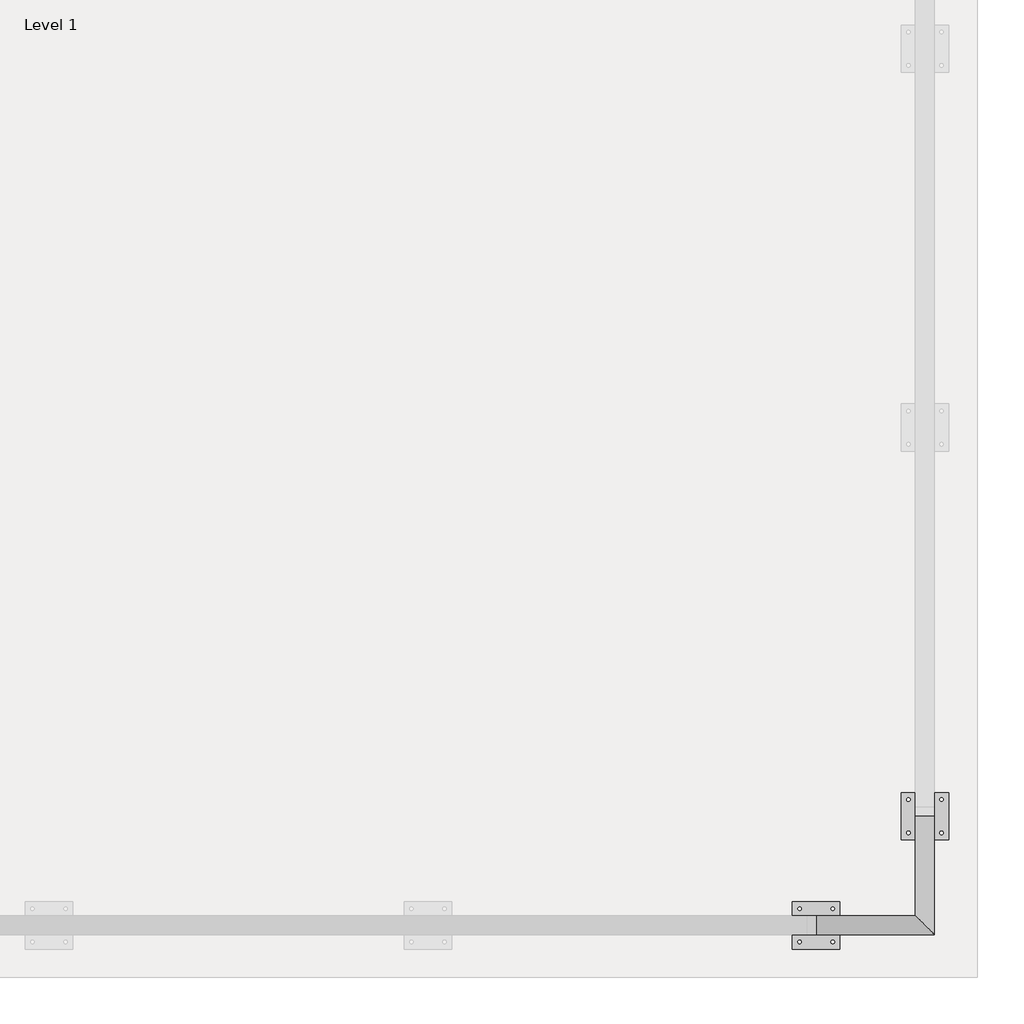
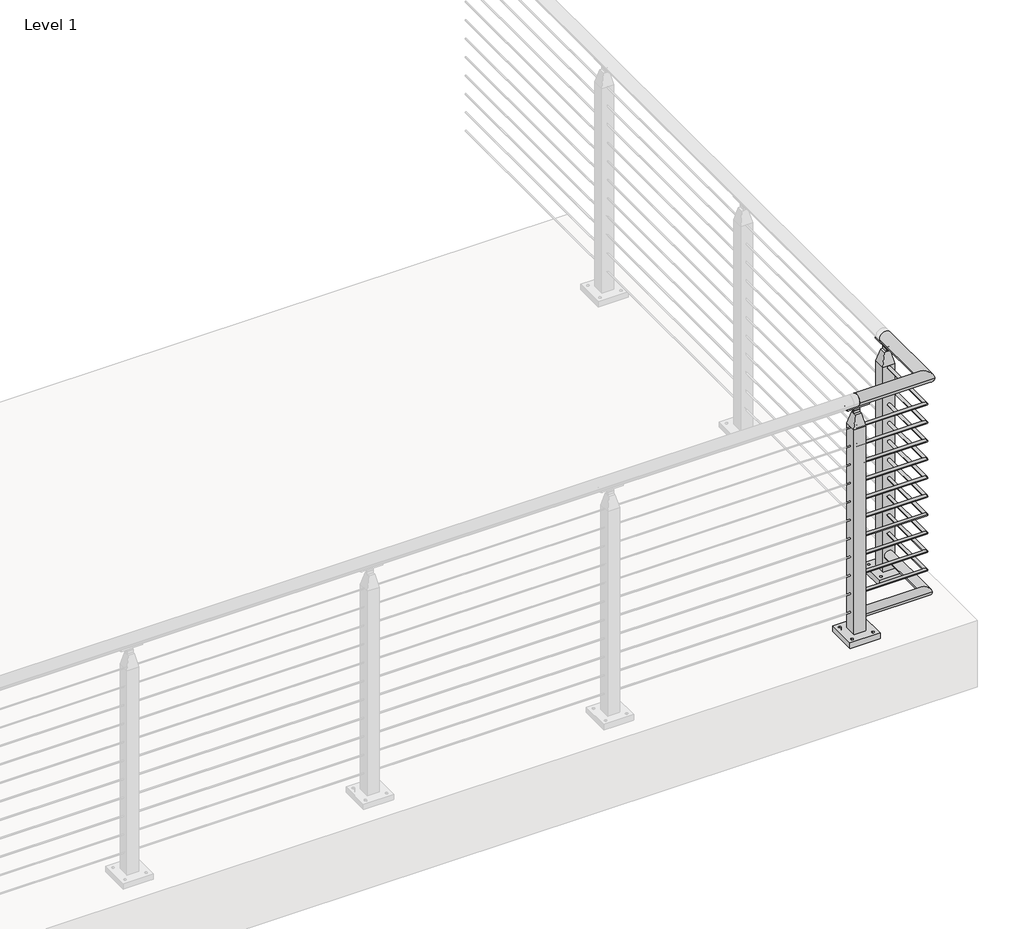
# One storey, part 10 of 26: 1 railing.
"""IFC4 building model written with IfcOpenShell, lengths in millimetres."""

from ifc_helpers import new_model, si_unit, point, frame, frame_2d, origin, origin_with_axes, place, context, project, spatial, polyline, circle_curve, ellipse_curve, trimmed, segment, composite_curve, outline, extrude, faceted_brep, element, save
from ifc_brep_helpers import plane_surface, cylinder_surface, advanced_brep

model = new_model("IFC4")

# Units and contexts
model_context = context("Model", 3, world=origin())
ifc_project = project(units=[si_unit("LENGTHUNIT", "METRE", prefix="MILLI")], contexts=[model_context])

# Site, building, storey
site = spatial("IfcSite", under=ifc_project)
building = spatial("IfcBuilding", under=site)
storey = spatial("IfcBuildingStorey", under=building, Name="Level 1", Elevation=0.0)

# Railing
placement = place(None, origin())
element("IfcRailing", 1, ObjectType="VIVA-CUBE-Cable-Floor Mount-Corner", at=placement, inside=storey, context=model_context, shape_type="SolidModel", body=[
    advanced_brep(
    [(19311.7855247, -57070.1334719, 1054.1), (19311.7855247, -57019.3334719, 1054.1), (19629.2855247, -57070.1334719, 1054.1), (19578.4855247, -57019.3334719, 1054.1), (19629.2855247, -56752.6334719, 1054.1), (19578.4855247, -56752.6334719, 1054.1)],
    [
        (0, 1, circle_curve(frame((19311.7855247, -57044.7334719, 1054.1), z_axis=(-1.0, 0.0, 0.0), x_axis=(0.0, 1.0, 0.0)), 25.4)),
        (1, 0, circle_curve(frame((19311.7855247, -57044.7334719, 1054.1), z_axis=(-1.0, 0.0, 0.0), x_axis=(0.0, 1.0, 0.0)), 25.4)),
        (0, 2),
        (2, 3, ellipse_curve(frame((19603.8855247, -57044.7334719, 1054.1), z_axis=(-0.7071067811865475, -0.7071067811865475, 0.0), x_axis=(-0.7071067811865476, 0.7071067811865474, 0.0)), 35.9210245, 25.4)),
        (3, 1),
        (3, 2, ellipse_curve(frame((19603.8855247, -57044.7334719, 1054.1), z_axis=(-0.7071067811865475, -0.7071067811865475, 0.0), x_axis=(-0.7071067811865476, 0.7071067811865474, 0.0)), 35.9210245, 25.4)),
        (4, 5, circle_curve(frame((19603.8855247, -56752.6334719, 1054.1), z_axis=(0.0, 1.0, 0.0), x_axis=(-1.0, 0.0, 0.0)), 25.4)),
        (5, 4, circle_curve(frame((19603.8855247, -56752.6334719, 1054.1), z_axis=(0.0, 1.0, 0.0), x_axis=(-1.0, 0.0, 0.0)), 25.4)),
        (2, 4),
        (5, 3),
    ],
    [
        plane_surface(frame((19311.7855247, -57044.7334719, 1079.5), z_axis=(-1.0, 0.0, 0.0), x_axis=(0.0, 1.0, 0.0))),
        cylinder_surface(frame((19311.7855247, -57044.7334719, 1054.1), z_axis=(-1.0, 0.0, 0.0), x_axis=(0.0, 1.0, 0.0)), 25.4),
        plane_surface(frame((19603.8855247, -56752.6334719, 1079.5), z_axis=(0.0, 1.0, 0.0), x_axis=(0.0, 0.0, 1.0))),
        cylinder_surface(frame((19603.8855247, -57044.7334719, 1054.1), z_axis=(0.0, -1.0, 0.0), x_axis=(-1.0, 0.0, 0.0)), 25.4),
    ],
    [
        (0, [[1, 2]]),
        (1, [[-1, 3, 4, 5]]),
        (1, [[-2, -5, 6, -3]]),
        (2, [[7, 8]]),
        (3, [[-4, 9, -8, 10]]),
        (3, [[-6, -10, -7, -9]]),
    ],
),
    advanced_brep(
    [(19311.7855247, -57038.3834719, 933.45), (19311.7855247, -57051.0834719, 933.45), (19597.5355247, -57038.3834719, 933.45), (19610.2355247, -57051.0834719, 933.45), (19597.5355247, -56752.6334719, 933.45), (19610.2355247, -56752.6334719, 933.45)],
    [
        (0, 1, circle_curve(frame((19311.7855247, -57044.7334719, 933.45), z_axis=(-1.0, 0.0, 0.0), x_axis=(0.0, -1.0, 0.0)), 6.35)),
        (1, 0, circle_curve(frame((19311.7855247, -57044.7334719, 933.45), z_axis=(-1.0, 0.0, 0.0), x_axis=(0.0, -1.0, 0.0)), 6.35)),
        (0, 2),
        (2, 3, ellipse_curve(frame((19603.8855247, -57044.7334719, 933.45), z_axis=(-0.7071067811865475, -0.7071067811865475, 0.0), x_axis=(-0.7071067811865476, 0.7071067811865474, 0.0)), 8.9802561, 6.35)),
        (3, 1),
        (3, 2, ellipse_curve(frame((19603.8855247, -57044.7334719, 933.45), z_axis=(-0.7071067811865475, -0.7071067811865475, 0.0), x_axis=(-0.7071067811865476, 0.7071067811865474, 0.0)), 8.9802561, 6.35)),
        (4, 5, circle_curve(frame((19603.8855247, -56752.6334719, 933.45), z_axis=(0.0, 1.0, 0.0), x_axis=(1.0, 0.0, 0.0)), 6.35)),
        (5, 4, circle_curve(frame((19603.8855247, -56752.6334719, 933.45), z_axis=(0.0, 1.0, 0.0), x_axis=(1.0, 0.0, 0.0)), 6.35)),
        (2, 4),
        (5, 3),
    ],
    [
        plane_surface(frame((19311.7855247, -57044.7334719, 939.8), z_axis=(-1.0, 0.0, 0.0), x_axis=(0.0, 1.0, 0.0))),
        cylinder_surface(frame((19311.7855247, -57044.7334719, 933.45), z_axis=(-1.0, 0.0, 0.0), x_axis=(0.0, -1.0, 0.0)), 6.35),
        plane_surface(frame((19603.8855247, -56752.6334719, 939.8), z_axis=(0.0, 1.0, 0.0), x_axis=(0.0, 0.0, 1.0))),
        cylinder_surface(frame((19603.8855247, -57044.7334719, 933.45), z_axis=(0.0, -1.0, 0.0), x_axis=(1.0, 0.0, 0.0)), 6.35),
    ],
    [
        (0, [[1, 2]]),
        (1, [[-1, 3, 4, 5]]),
        (1, [[-2, -5, 6, -3]]),
        (2, [[7, 8]]),
        (3, [[-4, 9, -8, 10]]),
        (3, [[-6, -10, -7, -9]]),
    ],
),
    advanced_brep(
    [(19311.7855247, -57038.3834719, 850.9), (19311.7855247, -57051.0834719, 850.9), (19597.5355247, -57038.3834719, 850.9), (19610.2355247, -57051.0834719, 850.9), (19597.5355247, -56752.6334719, 850.9), (19610.2355247, -56752.6334719, 850.9)],
    [
        (0, 1, circle_curve(frame((19311.7855247, -57044.7334719, 850.9), z_axis=(-1.0, 0.0, 0.0), x_axis=(0.0, -1.0, 0.0)), 6.35)),
        (1, 0, circle_curve(frame((19311.7855247, -57044.7334719, 850.9), z_axis=(-1.0, 0.0, 0.0), x_axis=(0.0, -1.0, 0.0)), 6.35)),
        (0, 2),
        (2, 3, ellipse_curve(frame((19603.8855247, -57044.7334719, 850.9), z_axis=(-0.7071067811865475, -0.7071067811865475, 0.0), x_axis=(-0.7071067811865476, 0.7071067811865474, 0.0)), 8.9802561, 6.35)),
        (3, 1),
        (3, 2, ellipse_curve(frame((19603.8855247, -57044.7334719, 850.9), z_axis=(-0.7071067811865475, -0.7071067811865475, 0.0), x_axis=(-0.7071067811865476, 0.7071067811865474, 0.0)), 8.9802561, 6.35)),
        (4, 5, circle_curve(frame((19603.8855247, -56752.6334719, 850.9), z_axis=(0.0, 1.0, 0.0), x_axis=(1.0, 0.0, 0.0)), 6.35)),
        (5, 4, circle_curve(frame((19603.8855247, -56752.6334719, 850.9), z_axis=(0.0, 1.0, 0.0), x_axis=(1.0, 0.0, 0.0)), 6.35)),
        (2, 4),
        (5, 3),
    ],
    [
        plane_surface(frame((19311.7855247, -57044.7334719, 857.25), z_axis=(-1.0, 0.0, 0.0), x_axis=(0.0, 1.0, 0.0))),
        cylinder_surface(frame((19311.7855247, -57044.7334719, 850.9), z_axis=(-1.0, 0.0, 0.0), x_axis=(0.0, -1.0, 0.0)), 6.35),
        plane_surface(frame((19603.8855247, -56752.6334719, 857.25), z_axis=(0.0, 1.0, 0.0), x_axis=(0.0, 0.0, 1.0))),
        cylinder_surface(frame((19603.8855247, -57044.7334719, 850.9), z_axis=(0.0, -1.0, 0.0), x_axis=(1.0, 0.0, 0.0)), 6.35),
    ],
    [
        (0, [[1, 2]]),
        (1, [[-1, 3, 4, 5]]),
        (1, [[-2, -5, 6, -3]]),
        (2, [[7, 8]]),
        (3, [[-4, 9, -8, 10]]),
        (3, [[-6, -10, -7, -9]]),
    ],
),
    advanced_brep(
    [(19311.7855247, -57038.3834719, 768.35), (19311.7855247, -57051.0834719, 768.35), (19597.5355247, -57038.3834719, 768.35), (19610.2355247, -57051.0834719, 768.35), (19597.5355247, -56752.6334719, 768.35), (19610.2355247, -56752.6334719, 768.35)],
    [
        (0, 1, circle_curve(frame((19311.7855247, -57044.7334719, 768.35), z_axis=(-1.0, 0.0, 0.0), x_axis=(0.0, -1.0, 0.0)), 6.35)),
        (1, 0, circle_curve(frame((19311.7855247, -57044.7334719, 768.35), z_axis=(-1.0, 0.0, 0.0), x_axis=(0.0, -1.0, 0.0)), 6.35)),
        (0, 2),
        (2, 3, ellipse_curve(frame((19603.8855247, -57044.7334719, 768.35), z_axis=(-0.7071067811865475, -0.7071067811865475, 0.0), x_axis=(-0.7071067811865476, 0.7071067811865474, 0.0)), 8.9802561, 6.35)),
        (3, 1),
        (3, 2, ellipse_curve(frame((19603.8855247, -57044.7334719, 768.35), z_axis=(-0.7071067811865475, -0.7071067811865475, 0.0), x_axis=(-0.7071067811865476, 0.7071067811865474, 0.0)), 8.9802561, 6.35)),
        (4, 5, circle_curve(frame((19603.8855247, -56752.6334719, 768.35), z_axis=(0.0, 1.0, 0.0), x_axis=(1.0, 0.0, 0.0)), 6.35)),
        (5, 4, circle_curve(frame((19603.8855247, -56752.6334719, 768.35), z_axis=(0.0, 1.0, 0.0), x_axis=(1.0, 0.0, 0.0)), 6.35)),
        (2, 4),
        (5, 3),
    ],
    [
        plane_surface(frame((19311.7855247, -57044.7334719, 774.7), z_axis=(-1.0, 0.0, 0.0), x_axis=(0.0, 1.0, 0.0))),
        cylinder_surface(frame((19311.7855247, -57044.7334719, 768.35), z_axis=(-1.0, 0.0, 0.0), x_axis=(0.0, -1.0, 0.0)), 6.35),
        plane_surface(frame((19603.8855247, -56752.6334719, 774.7), z_axis=(0.0, 1.0, 0.0), x_axis=(0.0, 0.0, 1.0))),
        cylinder_surface(frame((19603.8855247, -57044.7334719, 768.35), z_axis=(0.0, -1.0, 0.0), x_axis=(1.0, 0.0, 0.0)), 6.35),
    ],
    [
        (0, [[1, 2]]),
        (1, [[-1, 3, 4, 5]]),
        (1, [[-2, -5, 6, -3]]),
        (2, [[7, 8]]),
        (3, [[-4, 9, -8, 10]]),
        (3, [[-6, -10, -7, -9]]),
    ],
),
    advanced_brep(
    [(19311.7855247, -57038.3834719, 685.8), (19311.7855247, -57051.0834719, 685.8), (19597.5355247, -57038.3834719, 685.8), (19610.2355247, -57051.0834719, 685.8), (19597.5355247, -56752.6334719, 685.8), (19610.2355247, -56752.6334719, 685.8)],
    [
        (0, 1, circle_curve(frame((19311.7855247, -57044.7334719, 685.8), z_axis=(-1.0, 0.0, 0.0), x_axis=(0.0, -1.0, 0.0)), 6.35)),
        (1, 0, circle_curve(frame((19311.7855247, -57044.7334719, 685.8), z_axis=(-1.0, 0.0, 0.0), x_axis=(0.0, -1.0, 0.0)), 6.35)),
        (0, 2),
        (2, 3, ellipse_curve(frame((19603.8855247, -57044.7334719, 685.8), z_axis=(-0.7071067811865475, -0.7071067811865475, 0.0), x_axis=(-0.7071067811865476, 0.7071067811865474, 0.0)), 8.9802561, 6.35)),
        (3, 1),
        (3, 2, ellipse_curve(frame((19603.8855247, -57044.7334719, 685.8), z_axis=(-0.7071067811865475, -0.7071067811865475, 0.0), x_axis=(-0.7071067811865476, 0.7071067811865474, 0.0)), 8.9802561, 6.35)),
        (4, 5, circle_curve(frame((19603.8855247, -56752.6334719, 685.8), z_axis=(0.0, 1.0, 0.0), x_axis=(1.0, 0.0, 0.0)), 6.35)),
        (5, 4, circle_curve(frame((19603.8855247, -56752.6334719, 685.8), z_axis=(0.0, 1.0, 0.0), x_axis=(1.0, 0.0, 0.0)), 6.35)),
        (2, 4),
        (5, 3),
    ],
    [
        plane_surface(frame((19311.7855247, -57044.7334719, 692.15), z_axis=(-1.0, 0.0, 0.0), x_axis=(0.0, 1.0, 0.0))),
        cylinder_surface(frame((19311.7855247, -57044.7334719, 685.8), z_axis=(-1.0, 0.0, 0.0), x_axis=(0.0, -1.0, 0.0)), 6.35),
        plane_surface(frame((19603.8855247, -56752.6334719, 692.15), z_axis=(0.0, 1.0, 0.0), x_axis=(0.0, 0.0, 1.0))),
        cylinder_surface(frame((19603.8855247, -57044.7334719, 685.8), z_axis=(0.0, -1.0, 0.0), x_axis=(1.0, 0.0, 0.0)), 6.35),
    ],
    [
        (0, [[1, 2]]),
        (1, [[-1, 3, 4, 5]]),
        (1, [[-2, -5, 6, -3]]),
        (2, [[7, 8]]),
        (3, [[-4, 9, -8, 10]]),
        (3, [[-6, -10, -7, -9]]),
    ],
),
    advanced_brep(
    [(19311.7855247, -57038.3834719, 603.25), (19311.7855247, -57051.0834719, 603.25), (19597.5355247, -57038.3834719, 603.25), (19610.2355247, -57051.0834719, 603.25), (19597.5355247, -56752.6334719, 603.25), (19610.2355247, -56752.6334719, 603.25)],
    [
        (0, 1, circle_curve(frame((19311.7855247, -57044.7334719, 603.25), z_axis=(-1.0, 0.0, 0.0), x_axis=(0.0, -1.0, 0.0)), 6.35)),
        (1, 0, circle_curve(frame((19311.7855247, -57044.7334719, 603.25), z_axis=(-1.0, 0.0, 0.0), x_axis=(0.0, -1.0, 0.0)), 6.35)),
        (0, 2),
        (2, 3, ellipse_curve(frame((19603.8855247, -57044.7334719, 603.25), z_axis=(-0.7071067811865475, -0.7071067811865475, 0.0), x_axis=(-0.7071067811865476, 0.7071067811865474, 0.0)), 8.9802561, 6.35)),
        (3, 1),
        (3, 2, ellipse_curve(frame((19603.8855247, -57044.7334719, 603.25), z_axis=(-0.7071067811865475, -0.7071067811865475, 0.0), x_axis=(-0.7071067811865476, 0.7071067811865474, 0.0)), 8.9802561, 6.35)),
        (4, 5, circle_curve(frame((19603.8855247, -56752.6334719, 603.25), z_axis=(0.0, 1.0, 0.0), x_axis=(1.0, 0.0, 0.0)), 6.35)),
        (5, 4, circle_curve(frame((19603.8855247, -56752.6334719, 603.25), z_axis=(0.0, 1.0, 0.0), x_axis=(1.0, 0.0, 0.0)), 6.35)),
        (2, 4),
        (5, 3),
    ],
    [
        plane_surface(frame((19311.7855247, -57044.7334719, 609.6), z_axis=(-1.0, 0.0, 0.0), x_axis=(0.0, 1.0, 0.0))),
        cylinder_surface(frame((19311.7855247, -57044.7334719, 603.25), z_axis=(-1.0, 0.0, 0.0), x_axis=(0.0, -1.0, 0.0)), 6.35),
        plane_surface(frame((19603.8855247, -56752.6334719, 609.6), z_axis=(0.0, 1.0, 0.0), x_axis=(0.0, 0.0, 1.0))),
        cylinder_surface(frame((19603.8855247, -57044.7334719, 603.25), z_axis=(0.0, -1.0, 0.0), x_axis=(1.0, 0.0, 0.0)), 6.35),
    ],
    [
        (0, [[1, 2]]),
        (1, [[-1, 3, 4, 5]]),
        (1, [[-2, -5, 6, -3]]),
        (2, [[7, 8]]),
        (3, [[-4, 9, -8, 10]]),
        (3, [[-6, -10, -7, -9]]),
    ],
),
    advanced_brep(
    [(19311.7855247, -57038.3834719, 520.7), (19311.7855247, -57051.0834719, 520.7), (19597.5355247, -57038.3834719, 520.7), (19610.2355247, -57051.0834719, 520.7), (19597.5355247, -56752.6334719, 520.7), (19610.2355247, -56752.6334719, 520.7)],
    [
        (0, 1, circle_curve(frame((19311.7855247, -57044.7334719, 520.7), z_axis=(-1.0, 0.0, 0.0), x_axis=(0.0, -1.0, 0.0)), 6.35)),
        (1, 0, circle_curve(frame((19311.7855247, -57044.7334719, 520.7), z_axis=(-1.0, 0.0, 0.0), x_axis=(0.0, -1.0, 0.0)), 6.35)),
        (0, 2),
        (2, 3, ellipse_curve(frame((19603.8855247, -57044.7334719, 520.7), z_axis=(-0.7071067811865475, -0.7071067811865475, 0.0), x_axis=(-0.7071067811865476, 0.7071067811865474, 0.0)), 8.9802561, 6.35)),
        (3, 1),
        (3, 2, ellipse_curve(frame((19603.8855247, -57044.7334719, 520.7), z_axis=(-0.7071067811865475, -0.7071067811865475, 0.0), x_axis=(-0.7071067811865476, 0.7071067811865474, 0.0)), 8.9802561, 6.35)),
        (4, 5, circle_curve(frame((19603.8855247, -56752.6334719, 520.7), z_axis=(0.0, 1.0, 0.0), x_axis=(1.0, 0.0, 0.0)), 6.35)),
        (5, 4, circle_curve(frame((19603.8855247, -56752.6334719, 520.7), z_axis=(0.0, 1.0, 0.0), x_axis=(1.0, 0.0, 0.0)), 6.35)),
        (2, 4),
        (5, 3),
    ],
    [
        plane_surface(frame((19311.7855247, -57044.7334719, 527.05), z_axis=(-1.0, 0.0, 0.0), x_axis=(0.0, 1.0, 0.0))),
        cylinder_surface(frame((19311.7855247, -57044.7334719, 520.7), z_axis=(-1.0, 0.0, 0.0), x_axis=(0.0, -1.0, 0.0)), 6.35),
        plane_surface(frame((19603.8855247, -56752.6334719, 527.05), z_axis=(0.0, 1.0, 0.0), x_axis=(0.0, 0.0, 1.0))),
        cylinder_surface(frame((19603.8855247, -57044.7334719, 520.7), z_axis=(0.0, -1.0, 0.0), x_axis=(1.0, 0.0, 0.0)), 6.35),
    ],
    [
        (0, [[1, 2]]),
        (1, [[-1, 3, 4, 5]]),
        (1, [[-2, -5, 6, -3]]),
        (2, [[7, 8]]),
        (3, [[-4, 9, -8, 10]]),
        (3, [[-6, -10, -7, -9]]),
    ],
),
    advanced_brep(
    [(19311.7855247, -57038.3834719, 438.15), (19311.7855247, -57051.0834719, 438.15), (19597.5355247, -57038.3834719, 438.15), (19610.2355247, -57051.0834719, 438.15), (19597.5355247, -56752.6334719, 438.15), (19610.2355247, -56752.6334719, 438.15)],
    [
        (0, 1, circle_curve(frame((19311.7855247, -57044.7334719, 438.15), z_axis=(-1.0, 0.0, 0.0), x_axis=(0.0, -1.0, 0.0)), 6.35)),
        (1, 0, circle_curve(frame((19311.7855247, -57044.7334719, 438.15), z_axis=(-1.0, 0.0, 0.0), x_axis=(0.0, -1.0, 0.0)), 6.35)),
        (0, 2),
        (2, 3, ellipse_curve(frame((19603.8855247, -57044.7334719, 438.15), z_axis=(-0.7071067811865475, -0.7071067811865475, 0.0), x_axis=(-0.7071067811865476, 0.7071067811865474, 0.0)), 8.9802561, 6.35)),
        (3, 1),
        (3, 2, ellipse_curve(frame((19603.8855247, -57044.7334719, 438.15), z_axis=(-0.7071067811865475, -0.7071067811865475, 0.0), x_axis=(-0.7071067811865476, 0.7071067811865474, 0.0)), 8.9802561, 6.35)),
        (4, 5, circle_curve(frame((19603.8855247, -56752.6334719, 438.15), z_axis=(0.0, 1.0, 0.0), x_axis=(1.0, 0.0, 0.0)), 6.35)),
        (5, 4, circle_curve(frame((19603.8855247, -56752.6334719, 438.15), z_axis=(0.0, 1.0, 0.0), x_axis=(1.0, 0.0, 0.0)), 6.35)),
        (2, 4),
        (5, 3),
    ],
    [
        plane_surface(frame((19311.7855247, -57044.7334719, 444.5), z_axis=(-1.0, 0.0, 0.0), x_axis=(0.0, 1.0, 0.0))),
        cylinder_surface(frame((19311.7855247, -57044.7334719, 438.15), z_axis=(-1.0, 0.0, 0.0), x_axis=(0.0, -1.0, 0.0)), 6.35),
        plane_surface(frame((19603.8855247, -56752.6334719, 444.5), z_axis=(0.0, 1.0, 0.0), x_axis=(0.0, 0.0, 1.0))),
        cylinder_surface(frame((19603.8855247, -57044.7334719, 438.15), z_axis=(0.0, -1.0, 0.0), x_axis=(1.0, 0.0, 0.0)), 6.35),
    ],
    [
        (0, [[1, 2]]),
        (1, [[-1, 3, 4, 5]]),
        (1, [[-2, -5, 6, -3]]),
        (2, [[7, 8]]),
        (3, [[-4, 9, -8, 10]]),
        (3, [[-6, -10, -7, -9]]),
    ],
),
    advanced_brep(
    [(19311.7855247, -57038.3834719, 355.6), (19311.7855247, -57051.0834719, 355.6), (19597.5355247, -57038.3834719, 355.6), (19610.2355247, -57051.0834719, 355.6), (19597.5355247, -56752.6334719, 355.6), (19610.2355247, -56752.6334719, 355.6)],
    [
        (0, 1, circle_curve(frame((19311.7855247, -57044.7334719, 355.6), z_axis=(-1.0, 0.0, 0.0), x_axis=(0.0, -1.0, 0.0)), 6.35)),
        (1, 0, circle_curve(frame((19311.7855247, -57044.7334719, 355.6), z_axis=(-1.0, 0.0, 0.0), x_axis=(0.0, -1.0, 0.0)), 6.35)),
        (0, 2),
        (2, 3, ellipse_curve(frame((19603.8855247, -57044.7334719, 355.6), z_axis=(-0.7071067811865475, -0.7071067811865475, 0.0), x_axis=(-0.7071067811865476, 0.7071067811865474, 0.0)), 8.9802561, 6.35)),
        (3, 1),
        (3, 2, ellipse_curve(frame((19603.8855247, -57044.7334719, 355.6), z_axis=(-0.7071067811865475, -0.7071067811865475, 0.0), x_axis=(-0.7071067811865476, 0.7071067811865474, 0.0)), 8.9802561, 6.35)),
        (4, 5, circle_curve(frame((19603.8855247, -56752.6334719, 355.6), z_axis=(0.0, 1.0, 0.0), x_axis=(1.0, 0.0, 0.0)), 6.35)),
        (5, 4, circle_curve(frame((19603.8855247, -56752.6334719, 355.6), z_axis=(0.0, 1.0, 0.0), x_axis=(1.0, 0.0, 0.0)), 6.35)),
        (2, 4),
        (5, 3),
    ],
    [
        plane_surface(frame((19311.7855247, -57044.7334719, 361.95), z_axis=(-1.0, 0.0, 0.0), x_axis=(0.0, 1.0, 0.0))),
        cylinder_surface(frame((19311.7855247, -57044.7334719, 355.6), z_axis=(-1.0, 0.0, 0.0), x_axis=(0.0, -1.0, 0.0)), 6.35),
        plane_surface(frame((19603.8855247, -56752.6334719, 361.95), z_axis=(0.0, 1.0, 0.0), x_axis=(0.0, 0.0, 1.0))),
        cylinder_surface(frame((19603.8855247, -57044.7334719, 355.6), z_axis=(0.0, -1.0, 0.0), x_axis=(1.0, 0.0, 0.0)), 6.35),
    ],
    [
        (0, [[1, 2]]),
        (1, [[-1, 3, 4, 5]]),
        (1, [[-2, -5, 6, -3]]),
        (2, [[7, 8]]),
        (3, [[-4, 9, -8, 10]]),
        (3, [[-6, -10, -7, -9]]),
    ],
),
    advanced_brep(
    [(19311.7855247, -57038.3834719, 273.05), (19311.7855247, -57051.0834719, 273.05), (19597.5355247, -57038.3834719, 273.05), (19610.2355247, -57051.0834719, 273.05), (19597.5355247, -56752.6334719, 273.05), (19610.2355247, -56752.6334719, 273.05)],
    [
        (0, 1, circle_curve(frame((19311.7855247, -57044.7334719, 273.05), z_axis=(-1.0, 0.0, 0.0), x_axis=(0.0, -1.0, 0.0)), 6.35)),
        (1, 0, circle_curve(frame((19311.7855247, -57044.7334719, 273.05), z_axis=(-1.0, 0.0, 0.0), x_axis=(0.0, -1.0, 0.0)), 6.35)),
        (0, 2),
        (2, 3, ellipse_curve(frame((19603.8855247, -57044.7334719, 273.05), z_axis=(-0.7071067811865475, -0.7071067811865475, 0.0), x_axis=(-0.7071067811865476, 0.7071067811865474, 0.0)), 8.9802561, 6.35)),
        (3, 1),
        (3, 2, ellipse_curve(frame((19603.8855247, -57044.7334719, 273.05), z_axis=(-0.7071067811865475, -0.7071067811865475, 0.0), x_axis=(-0.7071067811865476, 0.7071067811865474, 0.0)), 8.9802561, 6.35)),
        (4, 5, circle_curve(frame((19603.8855247, -56752.6334719, 273.05), z_axis=(0.0, 1.0, 0.0), x_axis=(1.0, 0.0, 0.0)), 6.35)),
        (5, 4, circle_curve(frame((19603.8855247, -56752.6334719, 273.05), z_axis=(0.0, 1.0, 0.0), x_axis=(1.0, 0.0, 0.0)), 6.35)),
        (2, 4),
        (5, 3),
    ],
    [
        plane_surface(frame((19311.7855247, -57044.7334719, 279.4), z_axis=(-1.0, 0.0, 0.0), x_axis=(0.0, 1.0, 0.0))),
        cylinder_surface(frame((19311.7855247, -57044.7334719, 273.05), z_axis=(-1.0, 0.0, 0.0), x_axis=(0.0, -1.0, 0.0)), 6.35),
        plane_surface(frame((19603.8855247, -56752.6334719, 279.4), z_axis=(0.0, 1.0, 0.0), x_axis=(0.0, 0.0, 1.0))),
        cylinder_surface(frame((19603.8855247, -57044.7334719, 273.05), z_axis=(0.0, -1.0, 0.0), x_axis=(1.0, 0.0, 0.0)), 6.35),
    ],
    [
        (0, [[1, 2]]),
        (1, [[-1, 3, 4, 5]]),
        (1, [[-2, -5, 6, -3]]),
        (2, [[7, 8]]),
        (3, [[-4, 9, -8, 10]]),
        (3, [[-6, -10, -7, -9]]),
    ],
),
    advanced_brep(
    [(19311.7855247, -57038.3834719, 190.5), (19311.7855247, -57051.0834719, 190.5), (19597.5355247, -57038.3834719, 190.5), (19610.2355247, -57051.0834719, 190.5), (19597.5355247, -56752.6334719, 190.5), (19610.2355247, -56752.6334719, 190.5)],
    [
        (0, 1, circle_curve(frame((19311.7855247, -57044.7334719, 190.5), z_axis=(-1.0, 0.0, 0.0), x_axis=(0.0, -1.0, 0.0)), 6.35)),
        (1, 0, circle_curve(frame((19311.7855247, -57044.7334719, 190.5), z_axis=(-1.0, 0.0, 0.0), x_axis=(0.0, -1.0, 0.0)), 6.35)),
        (0, 2),
        (2, 3, ellipse_curve(frame((19603.8855247, -57044.7334719, 190.5), z_axis=(-0.7071067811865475, -0.7071067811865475, 0.0), x_axis=(-0.7071067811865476, 0.7071067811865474, 0.0)), 8.9802561, 6.35)),
        (3, 1),
        (3, 2, ellipse_curve(frame((19603.8855247, -57044.7334719, 190.5), z_axis=(-0.7071067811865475, -0.7071067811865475, 0.0), x_axis=(-0.7071067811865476, 0.7071067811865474, 0.0)), 8.9802561, 6.35)),
        (4, 5, circle_curve(frame((19603.8855247, -56752.6334719, 190.5), z_axis=(0.0, 1.0, 0.0), x_axis=(1.0, 0.0, 0.0)), 6.35)),
        (5, 4, circle_curve(frame((19603.8855247, -56752.6334719, 190.5), z_axis=(0.0, 1.0, 0.0), x_axis=(1.0, 0.0, 0.0)), 6.35)),
        (2, 4),
        (5, 3),
    ],
    [
        plane_surface(frame((19311.7855247, -57044.7334719, 196.85), z_axis=(-1.0, 0.0, 0.0), x_axis=(0.0, 1.0, 0.0))),
        cylinder_surface(frame((19311.7855247, -57044.7334719, 190.5), z_axis=(-1.0, 0.0, 0.0), x_axis=(0.0, -1.0, 0.0)), 6.35),
        plane_surface(frame((19603.8855247, -56752.6334719, 196.85), z_axis=(0.0, 1.0, 0.0), x_axis=(0.0, 0.0, 1.0))),
        cylinder_surface(frame((19603.8855247, -57044.7334719, 190.5), z_axis=(0.0, -1.0, 0.0), x_axis=(1.0, 0.0, 0.0)), 6.35),
    ],
    [
        (0, [[1, 2]]),
        (1, [[-1, 3, 4, 5]]),
        (1, [[-2, -5, 6, -3]]),
        (2, [[7, 8]]),
        (3, [[-4, 9, -8, 10]]),
        (3, [[-6, -10, -7, -9]]),
    ],
),
    advanced_brep(
    [(19311.7855247, -57025.6834719, 95.25), (19311.7855247, -57063.7834719, 95.25), (19584.8355247, -57025.6834719, 95.25), (19622.9355247, -57063.7834719, 95.25), (19584.8355247, -56752.6334719, 95.25), (19622.9355247, -56752.6334719, 95.25)],
    [
        (0, 1, circle_curve(frame((19311.7855247, -57044.7334719, 95.25), z_axis=(-1.0, 0.0, 0.0), x_axis=(0.0, -1.0, 0.0)), 19.05)),
        (1, 0, circle_curve(frame((19311.7855247, -57044.7334719, 95.25), z_axis=(-1.0, 0.0, 0.0), x_axis=(0.0, -1.0, 0.0)), 19.05)),
        (0, 2),
        (2, 3, ellipse_curve(frame((19603.8855247, -57044.7334719, 95.25), z_axis=(-0.7071067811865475, -0.7071067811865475, 0.0), x_axis=(-0.7071067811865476, 0.7071067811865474, 0.0)), 26.9407684, 19.05)),
        (3, 1),
        (3, 2, ellipse_curve(frame((19603.8855247, -57044.7334719, 95.25), z_axis=(-0.7071067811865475, -0.7071067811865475, 0.0), x_axis=(-0.7071067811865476, 0.7071067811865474, 0.0)), 26.9407684, 19.05)),
        (4, 5, circle_curve(frame((19603.8855247, -56752.6334719, 95.25), z_axis=(0.0, 1.0, 0.0), x_axis=(1.0, 0.0, 0.0)), 19.05)),
        (5, 4, circle_curve(frame((19603.8855247, -56752.6334719, 95.25), z_axis=(0.0, 1.0, 0.0), x_axis=(1.0, 0.0, 0.0)), 19.05)),
        (2, 4),
        (5, 3),
    ],
    [
        plane_surface(frame((19311.7855247, -57044.7334719, 114.3), z_axis=(-1.0, 0.0, 0.0), x_axis=(0.0, 1.0, 0.0))),
        cylinder_surface(frame((19311.7855247, -57044.7334719, 95.25), z_axis=(-1.0, 0.0, 0.0), x_axis=(0.0, -1.0, 0.0)), 19.05),
        plane_surface(frame((19603.8855247, -56752.6334719, 114.3), z_axis=(0.0, 1.0, 0.0), x_axis=(0.0, 0.0, 1.0))),
        cylinder_surface(frame((19603.8855247, -57044.7334719, 95.25), z_axis=(0.0, -1.0, 0.0), x_axis=(1.0, 0.0, 0.0)), 19.05),
    ],
    [
        (0, [[1, 2]]),
        (1, [[-1, 3, 4, 5]]),
        (1, [[-2, -5, 6, -3]]),
        (2, [[7, 8]]),
        (3, [[-4, 9, -8, 10]]),
        (3, [[-6, -10, -7, -9]]),
    ],
),
    extrude(outline(polyline([(19540.3855247, -56688.7365969), (19667.3855247, -56688.7365969), (19667.3855247, -56815.7365969), (19540.3855247, -56815.7365969), (19540.3855247, -56688.7365969)]), holes=[composite_curve([segment(trimmed(circle_curve(frame_2d((19648.3355247, -56796.6865969)), 4.7625), [point((19653.0980247, -56796.6865969))], [point((19643.5730247, -56796.6865969))], True, "CARTESIAN"), True, "CONTINUOUS"), segment(trimmed(circle_curve(frame_2d((19648.3355247, -56796.6865969)), 4.7625), [point((19643.5730247, -56796.6865969))], [point((19653.0980247, -56796.6865969))], True, "CARTESIAN"), True, "CONTINUOUS")], self_intersect=False), composite_curve([segment(trimmed(circle_curve(frame_2d((19559.4355247, -56796.6865969)), 4.7625), [point((19564.1980247, -56796.6865969))], [point((19554.6730247, -56796.6865969))], True, "CARTESIAN"), True, "CONTINUOUS"), segment(trimmed(circle_curve(frame_2d((19559.4355247, -56796.6865969)), 4.7625), [point((19554.6730247, -56796.6865969))], [point((19564.1980247, -56796.6865969))], True, "CARTESIAN"), True, "CONTINUOUS")], self_intersect=False), composite_curve([segment(trimmed(circle_curve(frame_2d((19648.3355247, -56707.7865969)), 4.7625), [point((19653.0980247, -56707.7865969))], [point((19643.5730247, -56707.7865969))], True, "CARTESIAN"), True, "CONTINUOUS"), segment(trimmed(circle_curve(frame_2d((19648.3355247, -56707.7865969)), 4.7625), [point((19643.5730247, -56707.7865969))], [point((19653.0980247, -56707.7865969))], True, "CARTESIAN"), True, "CONTINUOUS")], self_intersect=False), composite_curve([segment(trimmed(circle_curve(frame_2d((19559.4355247, -56707.7865969)), 4.7625), [point((19564.1980247, -56707.7865969))], [point((19554.6730247, -56707.7865969))], True, "CARTESIAN"), True, "CONTINUOUS"), segment(trimmed(circle_curve(frame_2d((19559.4355247, -56707.7865969)), 4.7625), [point((19554.6730247, -56707.7865969))], [point((19564.1980247, -56707.7865969))], True, "CARTESIAN"), True, "CONTINUOUS")], self_intersect=False)]), origin_with_axes(), (0.0, 0.0, 1.0), 25.4),
    faceted_brep([(19591.1855247, -56739.5365969, 997.2902749), (19591.1855247, -56764.9365969, 997.2902749), (19599.9167747, -56764.9365969, 997.2902749), (19599.9167747, -56739.5365969, 997.2902749), (19616.5855247, -56764.9365969, 997.2902749), (19616.5855247, -56739.5365969, 997.2902749), (19607.8542747, -56739.5365969, 997.2902749), (19607.8542747, -56764.9365969, 997.2902749), (19578.4855247, -56726.8365969, 941.1347854), (19629.2855247, -56726.8365969, 941.1347854), (19578.4855247, -56777.6365969, 941.1347854), (19629.2855247, -56777.6365969, 941.1347854), (19578.4855247, -56726.8365969, 25.4), (19629.2855247, -56726.8365969, 25.4), (19629.2855247, -56777.6365969, 25.4), (19578.4855247, -56777.6365969, 25.4), (19607.8542747, -56764.9365969, 1009.3306013), (19607.8542747, -56739.5365969, 1009.3306013), (19599.9167747, -56739.5365969, 1009.3306013), (19599.9167747, -56764.9365969, 1009.3306013)], [[[0, 1, 2, 3]], [[4, 5, 6, 7]], [[8, 0, 3, 6, 5, 9]], [[1, 0, 8, 10]], [[1, 10, 11, 4, 7, 2]], [[5, 4, 11, 9]], [[12, 13, 14, 15]], [[12, 15, 10, 8]], [[15, 14, 11, 10]], [[14, 13, 9, 11]], [[13, 12, 8, 9]], [[16, 17, 18, 19]], [[17, 16, 7, 6]], [[18, 17, 6, 3]], [[19, 18, 3, 2]], [[16, 19, 2, 7]]]),
    extrude(outline(composite_curve([segment(trimmed(circle_curve(frame_2d((1054.1433184, 19603.7887963)), 25.4345159), [point((1032.0284941, 19616.3525992))], [point((1031.9335733, 19591.3935626))], True, "CARTESIAN"), True, "CONTINUOUS"), segment(trimmed(circle_curve(frame_2d((1029.4310885, 19590.1489094)), 2.7949225), [point((1031.9335733, 19591.3935626))], [point((1027.0585031, 19588.6716044))], False, "CARTESIAN"), True, "CONTINUOUS"), segment(trimmed(circle_curve(frame_2d((1054.905945, 19603.9222594)), 31.75), [point((1027.0585031, 19588.6716044))], [point((1027.6392616, 19620.1884966))], False, "CARTESIAN"), True, "CONTINUOUS"), segment(trimmed(circle_curve(frame_2d((1029.5101807, 19617.9001569)), 2.9558141), [point((1027.6392616, 19620.1884966))], [point((1032.0284941, 19616.3525992))], False, "CARTESIAN"), True, "CONTINUOUS")], self_intersect=False)), frame((0.0, -56797.4739969, 0.0), z_axis=(0.0, 1.0, 0.0), x_axis=(0.0, 0.0, 1.0)), (0.0, 0.0, 1.0), 90.4748),
    extrude(outline(composite_curve([segment(trimmed(circle_curve(frame_2d((-56725.168682, 1009.0006022)), 14.3679149), [point((-56725.168682, 1023.3685171))], [point((-56739.5365969, 1009.0006022))], True, "CARTESIAN"), True, "CONTINUOUS"), segment(trimmed(circle_curve(frame_2d((-56752.2365969, 1009.0006022)), 12.7), [point((-56739.5365969, 1009.0006022))], [point((-56764.9365969, 1009.0006022))], False, "CARTESIAN"), True, "CONTINUOUS"), segment(trimmed(circle_curve(frame_2d((-56779.3045117, 1009.0006022)), 14.3679149), [point((-56764.9365969, 1009.0006022))], [point((-56779.3045117, 1023.3685171))], True, "CARTESIAN"), True, "CONTINUOUS"), segment(polyline([(-56779.3045117, 1023.3685171), (-56725.168682, 1023.3685171)]), True, "CONTINUOUS")], self_intersect=False)), frame((19601.3455247, 0.0, 0.0), z_axis=(1.0, 0.0, 0.0), x_axis=(0.0, 1.0, 0.0)), (0.0, 0.0, 1.0), 5.08),
    extrude(outline(polyline([(19375.6823997, -56981.2334719), (19375.6823997, -57108.2334719), (19248.6823997, -57108.2334719), (19248.6823997, -56981.2334719), (19375.6823997, -56981.2334719)]), holes=[composite_curve([segment(trimmed(circle_curve(frame_2d((19267.7323997, -57089.1834719)), 4.7625), [point((19267.7323997, -57093.9459719))], [point((19267.7323997, -57084.4209719))], True, "CARTESIAN"), True, "CONTINUOUS"), segment(trimmed(circle_curve(frame_2d((19267.7323997, -57089.1834719)), 4.7625), [point((19267.7323997, -57084.4209719))], [point((19267.7323997, -57093.9459719))], True, "CARTESIAN"), True, "CONTINUOUS")], self_intersect=False), composite_curve([segment(trimmed(circle_curve(frame_2d((19267.7323997, -57000.2834719)), 4.7625), [point((19267.7323997, -57005.0459719))], [point((19267.7323997, -56995.5209719))], True, "CARTESIAN"), True, "CONTINUOUS"), segment(trimmed(circle_curve(frame_2d((19267.7323997, -57000.2834719)), 4.7625), [point((19267.7323997, -56995.5209719))], [point((19267.7323997, -57005.0459719))], True, "CARTESIAN"), True, "CONTINUOUS")], self_intersect=False), composite_curve([segment(trimmed(circle_curve(frame_2d((19356.6323997, -57089.1834719)), 4.7625), [point((19356.6323997, -57093.9459719))], [point((19356.6323997, -57084.4209719))], True, "CARTESIAN"), True, "CONTINUOUS"), segment(trimmed(circle_curve(frame_2d((19356.6323997, -57089.1834719)), 4.7625), [point((19356.6323997, -57084.4209719))], [point((19356.6323997, -57093.9459719))], True, "CARTESIAN"), True, "CONTINUOUS")], self_intersect=False), composite_curve([segment(trimmed(circle_curve(frame_2d((19356.6323997, -57000.2834719)), 4.7625), [point((19356.6323997, -57005.0459719))], [point((19356.6323997, -56995.5209719))], True, "CARTESIAN"), True, "CONTINUOUS"), segment(trimmed(circle_curve(frame_2d((19356.6323997, -57000.2834719)), 4.7625), [point((19356.6323997, -56995.5209719))], [point((19356.6323997, -57005.0459719))], True, "CARTESIAN"), True, "CONTINUOUS")], self_intersect=False)]), origin_with_axes(), (0.0, 0.0, 1.0), 25.4),
    faceted_brep([(19324.8823997, -57032.0334719, 997.2902749), (19299.4823997, -57032.0334719, 997.2902749), (19299.4823997, -57040.7647219, 997.2902749), (19324.8823997, -57040.7647219, 997.2902749), (19299.4823997, -57057.4334719, 997.2902749), (19324.8823997, -57057.4334719, 997.2902749), (19324.8823997, -57048.7022219, 997.2902749), (19299.4823997, -57048.7022219, 997.2902749), (19337.5823997, -57019.3334719, 941.1347854), (19337.5823997, -57070.1334719, 941.1347854), (19286.7823997, -57019.3334719, 941.1347854), (19286.7823997, -57070.1334719, 941.1347854), (19337.5823997, -57019.3334719, 25.4), (19337.5823997, -57070.1334719, 25.4), (19286.7823997, -57070.1334719, 25.4), (19286.7823997, -57019.3334719, 25.4), (19299.4823997, -57048.7022219, 1009.3306013), (19324.8823997, -57048.7022219, 1009.3306013), (19324.8823997, -57040.7647219, 1009.3306013), (19299.4823997, -57040.7647219, 1009.3306013)], [[[0, 1, 2, 3]], [[4, 5, 6, 7]], [[8, 0, 3, 6, 5, 9]], [[1, 0, 8, 10]], [[1, 10, 11, 4, 7, 2]], [[5, 4, 11, 9]], [[12, 13, 14, 15]], [[12, 15, 10, 8]], [[15, 14, 11, 10]], [[14, 13, 9, 11]], [[13, 12, 8, 9]], [[16, 17, 18, 19]], [[17, 16, 7, 6]], [[18, 17, 6, 3]], [[19, 18, 3, 2]], [[16, 19, 2, 7]]]),
    extrude(outline(composite_curve([segment(trimmed(circle_curve(frame_2d((-57044.6367435, 1054.1433184)), 25.4345159), [point((-57057.2005464, 1032.0284941))], [point((-57032.2415097, 1031.9335733))], True, "CARTESIAN"), True, "CONTINUOUS"), segment(trimmed(circle_curve(frame_2d((-57030.9968566, 1029.4310885)), 2.7949225), [point((-57032.2415097, 1031.9335733))], [point((-57029.5195515, 1027.0585031))], False, "CARTESIAN"), True, "CONTINUOUS"), segment(trimmed(circle_curve(frame_2d((-57044.7702066, 1054.905945)), 31.75), [point((-57029.5195515, 1027.0585031))], [point((-57061.0364438, 1027.6392616))], False, "CARTESIAN"), True, "CONTINUOUS"), segment(trimmed(circle_curve(frame_2d((-57058.748104, 1029.5101807)), 2.9558141), [point((-57061.0364438, 1027.6392616))], [point((-57057.2005464, 1032.0284941))], False, "CARTESIAN"), True, "CONTINUOUS")], self_intersect=False)), frame((19266.9449997, 0.0, 0.0), z_axis=(1.0, 0.0, 0.0), x_axis=(0.0, 1.0, 0.0)), (0.0, 0.0, 1.0), 90.4748),
    extrude(outline(composite_curve([segment(polyline([(1023.3685171, 19339.2503146), (1023.3685171, 19285.1144848)]), True, "CONTINUOUS"), segment(trimmed(circle_curve(frame_2d((1009.0006022, 19285.1144848)), 14.3679149), [point((1023.3685171, 19285.1144848))], [point((1009.0006022, 19299.4823997))], True, "CARTESIAN"), True, "CONTINUOUS"), segment(trimmed(circle_curve(frame_2d((1009.0006022, 19312.1823997)), 12.7), [point((1009.0006022, 19299.4823997))], [point((1009.0006022, 19324.8823997))], False, "CARTESIAN"), True, "CONTINUOUS"), segment(trimmed(circle_curve(frame_2d((1009.0006022, 19339.2503146)), 14.3679149), [point((1009.0006022, 19324.8823997))], [point((1023.3685171, 19339.2503146))], True, "CARTESIAN"), True, "CONTINUOUS")], self_intersect=False)), frame((0.0, -57047.2734719, 0.0), z_axis=(0.0, 1.0, 0.0), x_axis=(0.0, 0.0, 1.0)), (0.0, 0.0, 1.0), 5.08),
])

save(model, "model.ifc")
